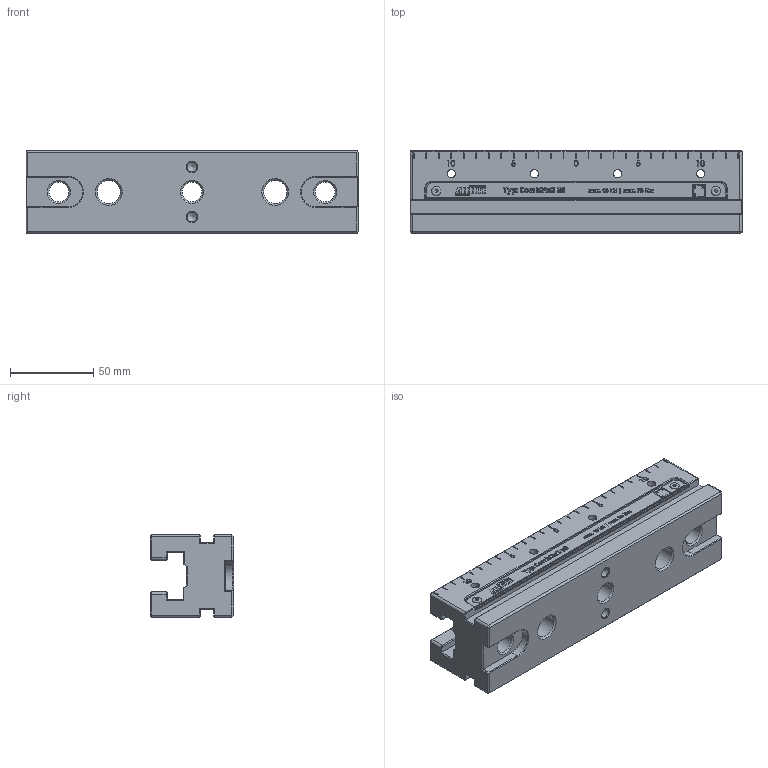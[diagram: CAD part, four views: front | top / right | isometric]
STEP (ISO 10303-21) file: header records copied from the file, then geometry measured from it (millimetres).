
FILE_DESCRIPTION (( 'STEP AP203' ), '1' );
FILE_NAME ('3D-6921328000255.STEP', '2023-12-14T06:41:03', ( '' ), ( '' ), 'SwSTEP 2.0', 'SolidWorks 2021', '' );
FILE_SCHEMA (( 'CONFIG_CONTROL_DESIGN' ));
Length unit declared in the file: millimetre
Products named in the file (4): 3D-6921328000255; 8051100034014_Blindniet; 6921321000200; 6921321050000
Assembly tree (4 placements, depth 2):
  3D-6921328000255
    6921321000200
    6921321050000
    8051100034014_Blindniet  x2
Bounding box: 199.5 x 50 x 50 mm (x, y, z)
Volume: 342626.6 mm3; surface area: 71173.3 mm2
Topology: 4 solids, 4 shells, 2363 faces, 6683 edges, 4413 vertices
Faces by surface type: plane 1650, bspline 340, cylinder 320, cone 51, torus 2
Full cylindrical faces by diameter (mm): 2 x2, 3 x2, 3.1 x2, 3.8 x2, 5 x8, 6 x2, 12 x3, 14 x2, 20 x5
Entity records: 83277 total; most frequent: CARTESIAN_POINT 25872, ORIENTED_EDGE 13240, DIRECTION 9547, EDGE_CURVE 6620, VECTOR 5195, LINE 5195, VERTEX_POINT 4393, EDGE_LOOP 2515
